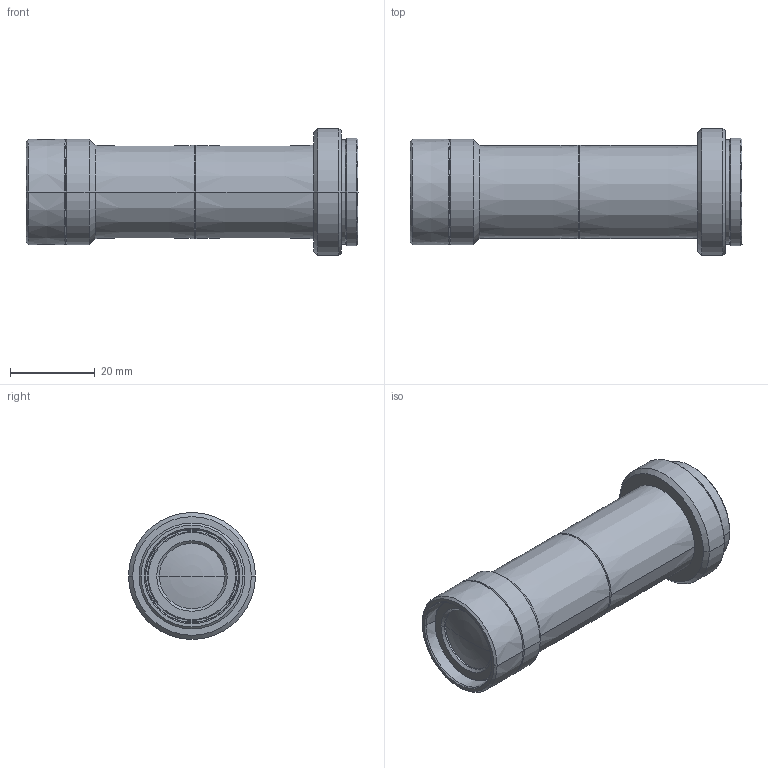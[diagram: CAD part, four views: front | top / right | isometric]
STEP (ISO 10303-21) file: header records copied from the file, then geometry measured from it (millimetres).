
FILE_DESCRIPTION (( 'STEP AP203' ), '1' );
FILE_NAME ('VS-TCH1.5-65.STEP', '2013-09-11T06:51:06', ( 'VS Technology' ), ( '' ), 'SwSTEP 2.0', 'SolidWorks 2012', '' );
FILE_SCHEMA (( 'CONFIG_CONTROL_DESIGN' ));
Length unit declared in the file: millimetre
Products named in the file (1): VS-TCH1.5-65
Bounding box: 78.4 x 30 x 30 mm (x, y, z)
Volume: 26592.4 mm3; surface area: 10135.1 mm2
Topology: 1 solids, 1 shells, 89 faces, 180 edges, 100 vertices
Faces by surface type: cone 54, cylinder 20, plane 11, torus 4
Entity records: 2353 total; most frequent: DIRECTION 458, CARTESIAN_POINT 366, ORIENTED_EDGE 352, AXIS2_PLACEMENT_3D 192, EDGE_CURVE 176, CIRCLE 102, VERTEX_POINT 100, EDGE_LOOP 100
